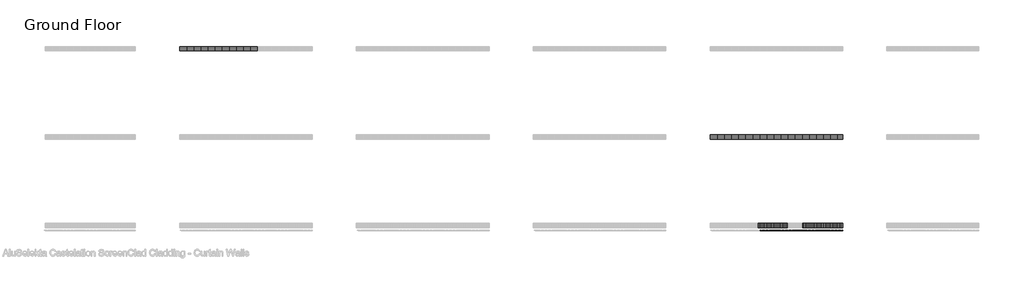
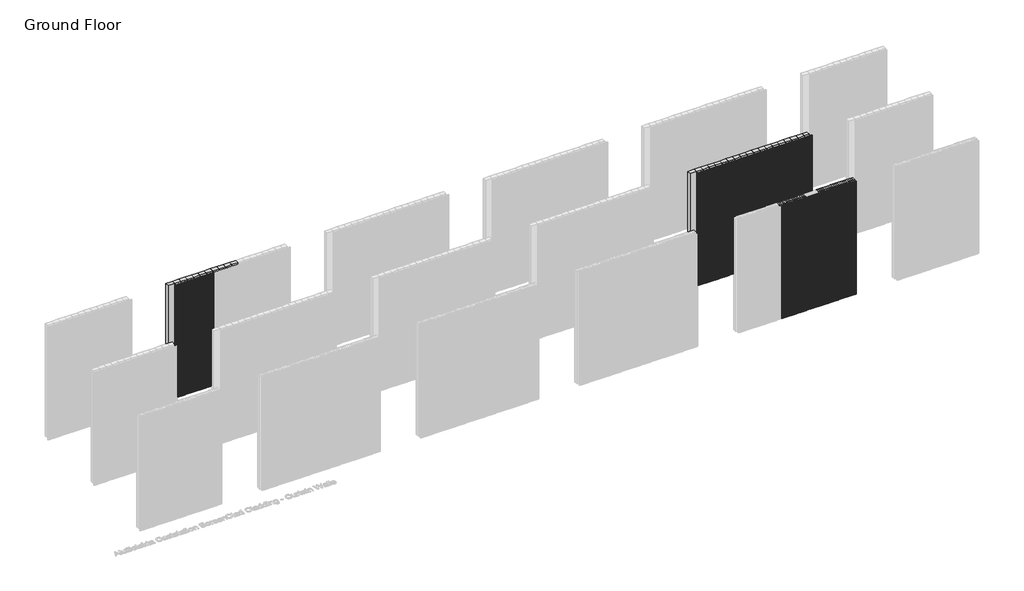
# One storey, part 28 of 350: 71 members, 70 plates.
"""IFC4 building model written with IfcOpenShell, lengths in millimetres."""

from ifc_helpers import new_model, si_unit, origin, place, context, project, spatial, transform, mapped, element, save
from components import rectangular_mullion_4c3290df, rectangular_mullion_73ab8564, empty_system_panel_empty_086c6263, empty_system_panel_empty_a0fcacb3, empty_system_panel_empty_3b645525, empty_system_panel_empty_df7ddcff

model = new_model("IFC4")

# Units and contexts
model_context = context("Model", 3, world=origin())
ifc_project = project(units=[si_unit("LENGTHUNIT", "METRE", prefix="MILLI")], contexts=[model_context])

# Site, building, storey
site = spatial("IfcSite", under=ifc_project)
building = spatial("IfcBuilding", under=site)
storey = spatial("IfcBuildingStorey", under=building, Name="Ground Floor", Elevation=0.0)

# Members
placement = place(None, origin())
rectangular_mullion_shape = rectangular_mullion_4c3290df(model_context)
element("IfcMember", 1, ObjectType="Rectangular Mullion : Cladding_Aluminium_Modinex_AluSelekta_Castelation_ScreenClad_40_TasmanianOak", at=placement, inside=storey, context=model_context, shape_type="MappedRepresentation", body=[
    mapped(rectangular_mullion_shape, transform((47156.4361642, 4968.2978302, 0.0), x_axis=(1.0, 0.0, 0.0), y_axis=(0.0, -1.0, 0.0), z_axis=(0.0, 0.0, -1.0))),
])
element("IfcMember", 2, ObjectType="Rectangular Mullion : Cladding_Aluminium_Modinex_AluSelekta_Castelation_ScreenClad_40_TasmanianOak", at=placement, inside=storey, context=model_context, shape_type="MappedRepresentation", body=[
    mapped(rectangular_mullion_shape, transform((47196.4361642, 4968.2978302, 0.0), x_axis=(1.0, 0.0, 0.0), y_axis=(0.0, -1.0, 0.0), z_axis=(0.0, 0.0, -1.0))),
])
element("IfcMember", 3, ObjectType="Rectangular Mullion : Cladding_Aluminium_Modinex_AluSelekta_Castelation_ScreenClad_40_TasmanianOak", at=placement, inside=storey, context=model_context, shape_type="MappedRepresentation", body=[
    mapped(rectangular_mullion_shape, transform((47236.4361642, 4968.2978302, 0.0), x_axis=(1.0, 0.0, 0.0), y_axis=(0.0, -1.0, 0.0), z_axis=(0.0, 0.0, -1.0))),
])
element("IfcMember", 4, ObjectType="Rectangular Mullion : Cladding_Aluminium_Modinex_AluSelekta_Castelation_ScreenClad_40_TasmanianOak", at=placement, inside=storey, context=model_context, shape_type="MappedRepresentation", body=[
    mapped(rectangular_mullion_shape, transform((47276.4361642, 4968.2978302, 0.0), x_axis=(1.0, 0.0, 0.0), y_axis=(0.0, -1.0, 0.0), z_axis=(0.0, 0.0, -1.0))),
])
element("IfcMember", 5, ObjectType="Rectangular Mullion : Cladding_Aluminium_Modinex_AluSelekta_Castelation_ScreenClad_40_TasmanianOak", at=placement, inside=storey, context=model_context, shape_type="MappedRepresentation", body=[
    mapped(rectangular_mullion_shape, transform((47316.4361642, 4968.2978302, 0.0), x_axis=(1.0, 0.0, 0.0), y_axis=(0.0, -1.0, 0.0), z_axis=(0.0, 0.0, -1.0))),
])
element("IfcMember", 6, ObjectType="Rectangular Mullion : Cladding_Aluminium_Modinex_AluSelekta_Castelation_ScreenClad_40_TasmanianOak", at=placement, inside=storey, context=model_context, shape_type="MappedRepresentation", body=[
    mapped(rectangular_mullion_shape, transform((47356.4361642, 4968.2978302, 0.0), x_axis=(1.0, 0.0, 0.0), y_axis=(0.0, -1.0, 0.0), z_axis=(0.0, 0.0, -1.0))),
])
element("IfcMember", 7, ObjectType="Rectangular Mullion : Cladding_Aluminium_Modinex_AluSelekta_Castelation_ScreenClad_40_TasmanianOak", at=placement, inside=storey, context=model_context, shape_type="MappedRepresentation", body=[
    mapped(rectangular_mullion_shape, transform((47396.4361642, 4968.2978302, 0.0), x_axis=(1.0, 0.0, 0.0), y_axis=(0.0, -1.0, 0.0), z_axis=(0.0, 0.0, -1.0))),
])
element("IfcMember", 8, ObjectType="Rectangular Mullion : Cladding_Aluminium_Modinex_AluSelekta_Castelation_ScreenClad_40_TasmanianOak", at=placement, inside=storey, context=model_context, shape_type="MappedRepresentation", body=[
    mapped(rectangular_mullion_shape, transform((47436.4361642, 4968.2978302, 0.0), x_axis=(1.0, 0.0, 0.0), y_axis=(0.0, -1.0, 0.0), z_axis=(0.0, 0.0, -1.0))),
])
element("IfcMember", 9, ObjectType="Rectangular Mullion : Cladding_Aluminium_Modinex_AluSelekta_Castelation_ScreenClad_40_TasmanianOak", at=placement, inside=storey, context=model_context, shape_type="MappedRepresentation", body=[
    mapped(rectangular_mullion_shape, transform((47476.4361642, 4968.2978302, 0.0), x_axis=(1.0, 0.0, 0.0), y_axis=(0.0, -1.0, 0.0), z_axis=(0.0, 0.0, -1.0))),
])
element("IfcMember", 10, ObjectType="Rectangular Mullion : Cladding_Aluminium_Modinex_AluSelekta_Castelation_ScreenClad_40_TasmanianOak", at=placement, inside=storey, context=model_context, shape_type="MappedRepresentation", body=[
    mapped(rectangular_mullion_shape, transform((47516.4361642, 4968.2978302, 0.0), x_axis=(1.0, 0.0, 0.0), y_axis=(0.0, -1.0, 0.0), z_axis=(0.0, 0.0, -1.0))),
])
element("IfcMember", 11, ObjectType="Rectangular Mullion : Cladding_Aluminium_Modinex_AluSelekta_Castelation_ScreenClad_40_TasmanianOak", at=placement, inside=storey, context=model_context, shape_type="MappedRepresentation", body=[
    mapped(rectangular_mullion_shape, transform((47556.4361642, 4968.2978302, 0.0), x_axis=(1.0, 0.0, 0.0), y_axis=(0.0, -1.0, 0.0), z_axis=(0.0, 0.0, -1.0))),
])
element("IfcMember", 12, ObjectType="Rectangular Mullion : Cladding_Aluminium_Modinex_AluSelekta_Castelation_ScreenClad_40_TasmanianOak", at=placement, inside=storey, context=model_context, shape_type="MappedRepresentation", body=[
    mapped(rectangular_mullion_shape, transform((47596.4361642, 4968.2978302, 0.0), x_axis=(1.0, 0.0, 0.0), y_axis=(0.0, -1.0, 0.0), z_axis=(0.0, 0.0, -1.0))),
])
element("IfcMember", 13, ObjectType="Rectangular Mullion : Cladding_Aluminium_Modinex_AluSelekta_Castelation_ScreenClad_40_TasmanianOak", at=placement, inside=storey, context=model_context, shape_type="MappedRepresentation", body=[
    mapped(rectangular_mullion_shape, transform((47636.4361642, 4968.2978302, 0.0), x_axis=(1.0, 0.0, 0.0), y_axis=(0.0, -1.0, 0.0), z_axis=(0.0, 0.0, -1.0))),
])
element("IfcMember", 14, ObjectType="Rectangular Mullion : Cladding_Aluminium_Modinex_AluSelekta_Castelation_ScreenClad_40_TasmanianOak", at=placement, inside=storey, context=model_context, shape_type="MappedRepresentation", body=[
    mapped(rectangular_mullion_shape, transform((47676.4361642, 4968.2978302, 0.0), x_axis=(1.0, 0.0, 0.0), y_axis=(0.0, -1.0, 0.0), z_axis=(0.0, 0.0, -1.0))),
])
element("IfcMember", 15, ObjectType="Rectangular Mullion : Cladding_Aluminium_Modinex_AluSelekta_Castelation_ScreenClad_40_TasmanianOak", at=placement, inside=storey, context=model_context, shape_type="MappedRepresentation", body=[
    mapped(rectangular_mullion_shape, transform((47716.4361642, 4968.2978302, 0.0), x_axis=(1.0, 0.0, 0.0), y_axis=(0.0, -1.0, 0.0), z_axis=(0.0, 0.0, -1.0))),
])
element("IfcMember", 16, ObjectType="Rectangular Mullion : Cladding_Aluminium_Modinex_AluSelekta_Castelation_ScreenClad_40_TasmanianOak", at=placement, inside=storey, context=model_context, shape_type="MappedRepresentation", body=[
    mapped(rectangular_mullion_shape, transform((47756.4361642, 4968.2978302, 0.0), x_axis=(1.0, 0.0, 0.0), y_axis=(0.0, -1.0, 0.0), z_axis=(0.0, 0.0, -1.0))),
])
element("IfcMember", 17, ObjectType="Rectangular Mullion : Cladding_Aluminium_Modinex_AluSelekta_Castelation_ScreenClad_40_TasmanianOak", at=placement, inside=storey, context=model_context, shape_type="MappedRepresentation", body=[
    mapped(rectangular_mullion_shape, transform((47796.4361642, 4968.2978302, 0.0), x_axis=(1.0, 0.0, 0.0), y_axis=(0.0, -1.0, 0.0), z_axis=(0.0, 0.0, -1.0))),
])
element("IfcMember", 18, ObjectType="Rectangular Mullion : Cladding_Aluminium_Modinex_AluSelekta_Castelation_ScreenClad_40_TasmanianOak", at=placement, inside=storey, context=model_context, shape_type="MappedRepresentation", body=[
    mapped(rectangular_mullion_shape, transform((47836.4361642, 4968.2978302, 0.0), x_axis=(1.0, 0.0, 0.0), y_axis=(0.0, -1.0, 0.0), z_axis=(0.0, 0.0, -1.0))),
])
element("IfcMember", 19, ObjectType="Rectangular Mullion : Cladding_Aluminium_Modinex_AluSelekta_Castelation_ScreenClad_40_TasmanianOak", at=placement, inside=storey, context=model_context, shape_type="MappedRepresentation", body=[
    mapped(rectangular_mullion_shape, transform((47876.4361642, 4968.2978302, 0.0), x_axis=(1.0, 0.0, 0.0), y_axis=(0.0, -1.0, 0.0), z_axis=(0.0, 0.0, -1.0))),
])
element("IfcMember", 20, ObjectType="Rectangular Mullion : Cladding_Aluminium_Modinex_AluSelekta_Castelation_ScreenClad_40_TasmanianOak", at=placement, inside=storey, context=model_context, shape_type="MappedRepresentation", body=[
    mapped(rectangular_mullion_shape, transform((47116.4361642, 4968.2978302, 0.0), x_axis=(1.0, 0.0, 0.0), y_axis=(0.0, -1.0, 0.0), z_axis=(0.0, 0.0, -1.0))),
])
element("IfcMember", 21, ObjectType="Rectangular Mullion : Cladding_Aluminium_Modinex_AluSelekta_Castelation_ScreenClad_40_TasmanianOak", at=placement, inside=storey, context=model_context, shape_type="MappedRepresentation", body=[
    mapped(rectangular_mullion_shape, transform((47076.4361642, 4968.2978302, 0.0), x_axis=(1.0, 0.0, 0.0), y_axis=(0.0, -1.0, 0.0), z_axis=(0.0, 0.0, -1.0))),
])
element("IfcMember", 22, ObjectType="Rectangular Mullion : Cladding_Aluminium_Modinex_AluSelekta_Castelation_ScreenClad_40_TasmanianOak", at=placement, inside=storey, context=model_context, shape_type="MappedRepresentation", body=[
    mapped(rectangular_mullion_shape, transform((47036.4361642, 4968.2978302, 0.0), x_axis=(1.0, 0.0, 0.0), y_axis=(0.0, -1.0, 0.0), z_axis=(0.0, 0.0, -1.0))),
])
element("IfcMember", 23, ObjectType="Rectangular Mullion : Cladding_Aluminium_Modinex_AluSelekta_Castelation_ScreenClad_40_TasmanianOak", at=placement, inside=storey, context=model_context, shape_type="MappedRepresentation", body=[
    mapped(rectangular_mullion_shape, transform((46996.4361642, 4968.2978302, 0.0), x_axis=(1.0, 0.0, 0.0), y_axis=(0.0, -1.0, 0.0), z_axis=(0.0, 0.0, -1.0))),
])
element("IfcMember", 24, ObjectType="Rectangular Mullion : Cladding_Aluminium_Modinex_AluSelekta_Castelation_ScreenClad_40_TasmanianOak", at=placement, inside=storey, context=model_context, shape_type="MappedRepresentation", body=[
    mapped(rectangular_mullion_shape, transform((46956.4361642, 4968.2978302, 0.0), x_axis=(1.0, 0.0, 0.0), y_axis=(0.0, -1.0, 0.0), z_axis=(0.0, 0.0, -1.0))),
])
element("IfcMember", 25, ObjectType="Rectangular Mullion : Cladding_Aluminium_Modinex_AluSelekta_Castelation_ScreenClad_40_TasmanianOak", at=placement, inside=storey, context=model_context, shape_type="MappedRepresentation", body=[
    mapped(rectangular_mullion_shape, transform((46916.4361642, 4968.2978302, 0.0), x_axis=(1.0, 0.0, 0.0), y_axis=(0.0, -1.0, 0.0), z_axis=(0.0, 0.0, -1.0))),
])
element("IfcMember", 26, ObjectType="Rectangular Mullion : Cladding_Aluminium_Modinex_AluSelekta_Castelation_ScreenClad_40_TasmanianOak", at=placement, inside=storey, context=model_context, shape_type="MappedRepresentation", body=[
    mapped(rectangular_mullion_shape, transform((46876.4361642, 4968.2978302, 0.0), x_axis=(1.0, 0.0, 0.0), y_axis=(0.0, -1.0, 0.0), z_axis=(0.0, 0.0, -1.0))),
])
element("IfcMember", 27, ObjectType="Rectangular Mullion : Cladding_Aluminium_Modinex_AluSelekta_Castelation_ScreenClad_40_TasmanianOak", at=placement, inside=storey, context=model_context, shape_type="MappedRepresentation", body=[
    mapped(rectangular_mullion_shape, transform((46836.4361642, 4968.2978302, 0.0), x_axis=(1.0, 0.0, 0.0), y_axis=(0.0, -1.0, 0.0), z_axis=(0.0, 0.0, -1.0))),
])
element("IfcMember", 28, ObjectType="Rectangular Mullion : Cladding_Aluminium_Modinex_AluSelekta_Castelation_ScreenClad_40_TasmanianOak", at=placement, inside=storey, context=model_context, shape_type="MappedRepresentation", body=[
    mapped(rectangular_mullion_shape, transform((46796.4361642, 4968.2978302, 0.0), x_axis=(1.0, 0.0, 0.0), y_axis=(0.0, -1.0, 0.0), z_axis=(0.0, 0.0, -1.0))),
])
element("IfcMember", 29, ObjectType="Rectangular Mullion : Cladding_Aluminium_Modinex_AluSelekta_Castelation_ScreenClad_40_TasmanianOak", at=placement, inside=storey, context=model_context, shape_type="MappedRepresentation", body=[
    mapped(rectangular_mullion_shape, transform((46756.4361642, 4968.2978302, 0.0), x_axis=(1.0, 0.0, 0.0), y_axis=(0.0, -1.0, 0.0), z_axis=(0.0, 0.0, -1.0))),
])
element("IfcMember", 30, ObjectType="Rectangular Mullion : Cladding_Aluminium_Modinex_AluSelekta_Castelation_ScreenClad_40_TasmanianOak", at=placement, inside=storey, context=model_context, shape_type="MappedRepresentation", body=[
    mapped(rectangular_mullion_shape, transform((46716.4361642, 4968.2978302, 0.0), x_axis=(1.0, 0.0, 0.0), y_axis=(0.0, -1.0, 0.0), z_axis=(0.0, 0.0, -1.0))),
])
element("IfcMember", 31, ObjectType="Rectangular Mullion : Cladding_Aluminium_Modinex_AluSelekta_Castelation_ScreenClad_40_TasmanianOak", at=placement, inside=storey, context=model_context, shape_type="MappedRepresentation", body=[
    mapped(rectangular_mullion_shape, transform((46676.4361642, 4968.2978302, 0.0), x_axis=(1.0, 0.0, 0.0), y_axis=(0.0, -1.0, 0.0), z_axis=(0.0, 0.0, -1.0))),
])
element("IfcMember", 32, ObjectType="Rectangular Mullion : Cladding_Aluminium_Modinex_AluSelekta_Castelation_ScreenClad_40_TasmanianOak", at=placement, inside=storey, context=model_context, shape_type="MappedRepresentation", body=[
    mapped(rectangular_mullion_shape, transform((46636.4361642, 4968.2978302, 0.0), x_axis=(1.0, 0.0, 0.0), y_axis=(0.0, -1.0, 0.0), z_axis=(0.0, 0.0, -1.0))),
])
element("IfcMember", 33, ObjectType="Rectangular Mullion : Cladding_Aluminium_Modinex_AluSelekta_Castelation_ScreenClad_40_TasmanianOak", at=placement, inside=storey, context=model_context, shape_type="MappedRepresentation", body=[
    mapped(rectangular_mullion_shape, transform((46596.4361642, 4968.2978302, 0.0), x_axis=(1.0, 0.0, 0.0), y_axis=(0.0, -1.0, 0.0), z_axis=(0.0, 0.0, -1.0))),
])
element("IfcMember", 34, ObjectType="Rectangular Mullion : Cladding_Aluminium_Modinex_AluSelekta_Castelation_ScreenClad_40_TasmanianOak", at=placement, inside=storey, context=model_context, shape_type="MappedRepresentation", body=[
    mapped(rectangular_mullion_shape, transform((46556.4361642, 4968.2978302, 0.0), x_axis=(1.0, 0.0, 0.0), y_axis=(0.0, -1.0, 0.0), z_axis=(0.0, 0.0, -1.0))),
])
element("IfcMember", 35, ObjectType="Rectangular Mullion : Cladding_Aluminium_Modinex_AluSelekta_Castelation_ScreenClad_40_TasmanianOak", at=placement, inside=storey, context=model_context, shape_type="MappedRepresentation", body=[
    mapped(rectangular_mullion_shape, transform((46516.4361642, 4968.2978302, 0.0), x_axis=(1.0, 0.0, 0.0), y_axis=(0.0, -1.0, 0.0), z_axis=(0.0, 0.0, -1.0))),
])
element("IfcMember", 36, ObjectType="Rectangular Mullion : Cladding_Aluminium_Modinex_AluSelekta_Castelation_ScreenClad_40_TasmanianOak", at=placement, inside=storey, context=model_context, shape_type="MappedRepresentation", body=[
    mapped(rectangular_mullion_shape, transform((46476.4361642, 4968.2978302, 0.0), x_axis=(1.0, 0.0, 0.0), y_axis=(0.0, -1.0, 0.0), z_axis=(0.0, 0.0, -1.0))),
])
element("IfcMember", 37, ObjectType="Rectangular Mullion : Cladding_Aluminium_Modinex_AluSelekta_Castelation_ScreenClad_40_TasmanianOak", at=placement, inside=storey, context=model_context, shape_type="MappedRepresentation", body=[
    mapped(rectangular_mullion_shape, transform((46436.4361642, 4968.2978302, 0.0), x_axis=(1.0, 0.0, 0.0), y_axis=(0.0, -1.0, 0.0), z_axis=(0.0, 0.0, -1.0))),
])
element("IfcMember", 38, ObjectType="Rectangular Mullion : Cladding_Aluminium_Modinex_AluSelekta_Castelation_ScreenClad_40_TasmanianOak", at=placement, inside=storey, context=model_context, shape_type="MappedRepresentation", body=[
    mapped(rectangular_mullion_shape, transform((46396.4361642, 4968.2978302, 0.0), x_axis=(1.0, 0.0, 0.0), y_axis=(0.0, -1.0, 0.0), z_axis=(0.0, 0.0, -1.0))),
])
element("IfcMember", 39, ObjectType="Rectangular Mullion : Cladding_Aluminium_Modinex_AluSelekta_Castelation_ScreenClad_40_TasmanianOak", at=placement, inside=storey, context=model_context, shape_type="MappedRepresentation", body=[
    mapped(rectangular_mullion_shape, transform((46356.4361642, 4968.2978302, 0.0), x_axis=(1.0, 0.0, 0.0), y_axis=(0.0, -1.0, 0.0), z_axis=(0.0, 0.0, -1.0))),
])
element("IfcMember", 40, ObjectType="Rectangular Mullion : Cladding_Aluminium_Modinex_AluSelekta_Castelation_ScreenClad_40_TasmanianOak", at=placement, inside=storey, context=model_context, shape_type="MappedRepresentation", body=[
    mapped(rectangular_mullion_shape, transform((46316.4361642, 4968.2978302, 0.0), x_axis=(1.0, 0.0, 0.0), y_axis=(0.0, -1.0, 0.0), z_axis=(0.0, 0.0, -1.0))),
])
element("IfcMember", 41, ObjectType="Rectangular Mullion : Cladding_Aluminium_Modinex_AluSelekta_Castelation_ScreenClad_40_TasmanianOak", at=placement, inside=storey, context=model_context, shape_type="MappedRepresentation", body=[
    mapped(rectangular_mullion_shape, transform((46276.4361642, 4968.2978302, 0.0), x_axis=(1.0, 0.0, 0.0), y_axis=(0.0, -1.0, 0.0), z_axis=(0.0, 0.0, -1.0))),
])
element("IfcMember", 42, ObjectType="Rectangular Mullion : Cladding_Aluminium_Modinex_AluSelekta_Castelation_ScreenClad_40_TasmanianOak", at=placement, inside=storey, context=model_context, shape_type="MappedRepresentation", body=[
    mapped(rectangular_mullion_shape, transform((46236.4361642, 4968.2978302, 0.0), x_axis=(1.0, 0.0, 0.0), y_axis=(0.0, -1.0, 0.0), z_axis=(0.0, 0.0, -1.0))),
])
element("IfcMember", 43, ObjectType="Rectangular Mullion : Cladding_Aluminium_Modinex_AluSelekta_Castelation_ScreenClad_40_TasmanianOak", at=placement, inside=storey, context=model_context, shape_type="MappedRepresentation", body=[
    mapped(rectangular_mullion_shape, transform((46196.4361642, 4968.2978302, 0.0), x_axis=(1.0, 0.0, 0.0), y_axis=(0.0, -1.0, 0.0), z_axis=(0.0, 0.0, -1.0))),
])
element("IfcMember", 44, ObjectType="Rectangular Mullion : Cladding_Aluminium_Modinex_AluSelekta_Castelation_ScreenClad_40_TasmanianOak", at=placement, inside=storey, context=model_context, shape_type="MappedRepresentation", body=[
    mapped(rectangular_mullion_shape, transform((46156.4361642, 4968.2978302, 0.0), x_axis=(1.0, 0.0, 0.0), y_axis=(0.0, -1.0, 0.0), z_axis=(0.0, 0.0, -1.0))),
])
element("IfcMember", 45, ObjectType="Rectangular Mullion : Cladding_Aluminium_Modinex_AluSelekta_Castelation_ScreenClad_40_TasmanianOak", at=placement, inside=storey, context=model_context, shape_type="MappedRepresentation", body=[
    mapped(rectangular_mullion_shape, transform((46116.4361642, 4968.2978302, 0.0), x_axis=(1.0, 0.0, 0.0), y_axis=(0.0, -1.0, 0.0), z_axis=(0.0, 0.0, -1.0))),
])
element("IfcMember", 46, ObjectType="Rectangular Mullion : Cladding_Aluminium_Modinex_AluSelekta_Castelation_ScreenClad_40_TasmanianOak", at=placement, inside=storey, context=model_context, shape_type="MappedRepresentation", body=[
    mapped(rectangular_mullion_shape, transform((46076.4361642, 4968.2978302, 0.0), x_axis=(1.0, 0.0, 0.0), y_axis=(0.0, -1.0, 0.0), z_axis=(0.0, 0.0, -1.0))),
])
element("IfcMember", 47, ObjectType="Rectangular Mullion : Cladding_Aluminium_Modinex_AluSelekta_Castelation_ScreenClad_40_TasmanianOak", at=placement, inside=storey, context=model_context, shape_type="MappedRepresentation", body=[
    mapped(rectangular_mullion_shape, transform((46036.4361642, 4968.2978302, 0.0), x_axis=(1.0, 0.0, 0.0), y_axis=(0.0, -1.0, 0.0), z_axis=(0.0, 0.0, -1.0))),
])
rectangular_mullion_2_shape = rectangular_mullion_73ab8564(model_context)
element("IfcMember", 48, ObjectType="Rectangular Mullion : Cladding_Aluminium_Modinex_AluSelekta_Castelation_ScreenClad_160_TasmanianOak", at=placement, inside=storey, context=model_context, shape_type="MappedRepresentation", body=[
    mapped(rectangular_mullion_2_shape, transform((45076.4361642, 6968.2978302, 0.0), x_axis=(1.0, 0.0, 0.0), y_axis=(0.0, -1.0, 0.0), z_axis=(0.0, 0.0, -1.0))),
])
element("IfcMember", 49, ObjectType="Rectangular Mullion : Cladding_Aluminium_Modinex_AluSelekta_Castelation_ScreenClad_160_TasmanianOak", at=placement, inside=storey, context=model_context, shape_type="MappedRepresentation", body=[
    mapped(rectangular_mullion_2_shape, transform((45236.4361642, 6968.2978302, 0.0), x_axis=(1.0, 0.0, 0.0), y_axis=(0.0, -1.0, 0.0), z_axis=(0.0, 0.0, -1.0))),
])
element("IfcMember", 50, ObjectType="Rectangular Mullion : Cladding_Aluminium_Modinex_AluSelekta_Castelation_ScreenClad_160_TasmanianOak", at=placement, inside=storey, context=model_context, shape_type="MappedRepresentation", body=[
    mapped(rectangular_mullion_2_shape, transform((45396.4361642, 6968.2978302, 0.0), x_axis=(1.0, 0.0, 0.0), y_axis=(0.0, -1.0, 0.0), z_axis=(0.0, 0.0, -1.0))),
])
element("IfcMember", 51, ObjectType="Rectangular Mullion : Cladding_Aluminium_Modinex_AluSelekta_Castelation_ScreenClad_160_TasmanianOak", at=placement, inside=storey, context=model_context, shape_type="MappedRepresentation", body=[
    mapped(rectangular_mullion_2_shape, transform((45556.4361642, 6968.2978302, 0.0), x_axis=(1.0, 0.0, 0.0), y_axis=(0.0, -1.0, 0.0), z_axis=(0.0, 0.0, -1.0))),
])
element("IfcMember", 52, ObjectType="Rectangular Mullion : Cladding_Aluminium_Modinex_AluSelekta_Castelation_ScreenClad_160_TasmanianOak", at=placement, inside=storey, context=model_context, shape_type="MappedRepresentation", body=[
    mapped(rectangular_mullion_2_shape, transform((45716.4361642, 6968.2978302, 0.0), x_axis=(1.0, 0.0, 0.0), y_axis=(0.0, -1.0, 0.0), z_axis=(0.0, 0.0, -1.0))),
])
element("IfcMember", 53, ObjectType="Rectangular Mullion : Cladding_Aluminium_Modinex_AluSelekta_Castelation_ScreenClad_160_TasmanianOak", at=placement, inside=storey, context=model_context, shape_type="MappedRepresentation", body=[
    mapped(rectangular_mullion_2_shape, transform((45876.4361642, 6968.2978302, 0.0), x_axis=(1.0, 0.0, 0.0), y_axis=(0.0, -1.0, 0.0), z_axis=(0.0, 0.0, -1.0))),
])
element("IfcMember", 54, ObjectType="Rectangular Mullion : Cladding_Aluminium_Modinex_AluSelekta_Castelation_ScreenClad_160_TasmanianOak", at=placement, inside=storey, context=model_context, shape_type="MappedRepresentation", body=[
    mapped(rectangular_mullion_2_shape, transform((46036.4361642, 6968.2978302, 0.0), x_axis=(1.0, 0.0, 0.0), y_axis=(0.0, -1.0, 0.0), z_axis=(0.0, 0.0, -1.0))),
])
element("IfcMember", 55, ObjectType="Rectangular Mullion : Cladding_Aluminium_Modinex_AluSelekta_Castelation_ScreenClad_160_TasmanianOak", at=placement, inside=storey, context=model_context, shape_type="MappedRepresentation", body=[
    mapped(rectangular_mullion_2_shape, transform((46196.4361642, 6968.2978302, 0.0), x_axis=(1.0, 0.0, 0.0), y_axis=(0.0, -1.0, 0.0), z_axis=(0.0, 0.0, -1.0))),
])
element("IfcMember", 56, ObjectType="Rectangular Mullion : Cladding_Aluminium_Modinex_AluSelekta_Castelation_ScreenClad_160_TasmanianOak", at=placement, inside=storey, context=model_context, shape_type="MappedRepresentation", body=[
    mapped(rectangular_mullion_2_shape, transform((46356.4361642, 6968.2978302, 0.0), x_axis=(1.0, 0.0, 0.0), y_axis=(0.0, -1.0, 0.0), z_axis=(0.0, 0.0, -1.0))),
])
element("IfcMember", 57, ObjectType="Rectangular Mullion : Cladding_Aluminium_Modinex_AluSelekta_Castelation_ScreenClad_160_TasmanianOak", at=placement, inside=storey, context=model_context, shape_type="MappedRepresentation", body=[
    mapped(rectangular_mullion_2_shape, transform((46516.4361642, 6968.2978302, 0.0), x_axis=(1.0, 0.0, 0.0), y_axis=(0.0, -1.0, 0.0), z_axis=(0.0, 0.0, -1.0))),
])
element("IfcMember", 58, ObjectType="Rectangular Mullion : Cladding_Aluminium_Modinex_AluSelekta_Castelation_ScreenClad_160_TasmanianOak", at=placement, inside=storey, context=model_context, shape_type="MappedRepresentation", body=[
    mapped(rectangular_mullion_2_shape, transform((46676.4361642, 6968.2978302, 0.0), x_axis=(1.0, 0.0, 0.0), y_axis=(0.0, -1.0, 0.0), z_axis=(0.0, 0.0, -1.0))),
])
element("IfcMember", 59, ObjectType="Rectangular Mullion : Cladding_Aluminium_Modinex_AluSelekta_Castelation_ScreenClad_160_TasmanianOak", at=placement, inside=storey, context=model_context, shape_type="MappedRepresentation", body=[
    mapped(rectangular_mullion_2_shape, transform((46836.4361642, 6968.2978302, 0.0), x_axis=(1.0, 0.0, 0.0), y_axis=(0.0, -1.0, 0.0), z_axis=(0.0, 0.0, -1.0))),
])
element("IfcMember", 60, ObjectType="Rectangular Mullion : Cladding_Aluminium_Modinex_AluSelekta_Castelation_ScreenClad_160_TasmanianOak", at=placement, inside=storey, context=model_context, shape_type="MappedRepresentation", body=[
    mapped(rectangular_mullion_2_shape, transform((46996.4361642, 6968.2978302, 0.0), x_axis=(1.0, 0.0, 0.0), y_axis=(0.0, -1.0, 0.0), z_axis=(0.0, 0.0, -1.0))),
])
element("IfcMember", 61, ObjectType="Rectangular Mullion : Cladding_Aluminium_Modinex_AluSelekta_Castelation_ScreenClad_160_TasmanianOak", at=placement, inside=storey, context=model_context, shape_type="MappedRepresentation", body=[
    mapped(rectangular_mullion_2_shape, transform((47156.4361642, 6968.2978302, 0.0), x_axis=(1.0, 0.0, 0.0), y_axis=(0.0, -1.0, 0.0), z_axis=(0.0, 0.0, -1.0))),
])
element("IfcMember", 62, ObjectType="Rectangular Mullion : Cladding_Aluminium_Modinex_AluSelekta_Castelation_ScreenClad_160_TasmanianOak", at=placement, inside=storey, context=model_context, shape_type="MappedRepresentation", body=[
    mapped(rectangular_mullion_2_shape, transform((47316.4361642, 6968.2978302, 0.0), x_axis=(1.0, 0.0, 0.0), y_axis=(0.0, -1.0, 0.0), z_axis=(0.0, 0.0, -1.0))),
])
element("IfcMember", 63, ObjectType="Rectangular Mullion : Cladding_Aluminium_Modinex_AluSelekta_Castelation_ScreenClad_160_TasmanianOak", at=placement, inside=storey, context=model_context, shape_type="MappedRepresentation", body=[
    mapped(rectangular_mullion_2_shape, transform((47476.4361642, 6968.2978302, 0.0), x_axis=(1.0, 0.0, 0.0), y_axis=(0.0, -1.0, 0.0), z_axis=(0.0, 0.0, -1.0))),
])
element("IfcMember", 64, ObjectType="Rectangular Mullion : Cladding_Aluminium_Modinex_AluSelekta_Castelation_ScreenClad_160_TasmanianOak", at=placement, inside=storey, context=model_context, shape_type="MappedRepresentation", body=[
    mapped(rectangular_mullion_2_shape, transform((47636.4361642, 6968.2978302, 0.0), x_axis=(1.0, 0.0, 0.0), y_axis=(0.0, -1.0, 0.0), z_axis=(0.0, 0.0, -1.0))),
])
element("IfcMember", 65, ObjectType="Rectangular Mullion : Cladding_Aluminium_Modinex_AluSelekta_Castelation_ScreenClad_160_TasmanianOak", at=placement, inside=storey, context=model_context, shape_type="MappedRepresentation", body=[
    mapped(rectangular_mullion_2_shape, transform((47796.4361642, 6968.2978302, 0.0), x_axis=(1.0, 0.0, 0.0), y_axis=(0.0, -1.0, 0.0), z_axis=(0.0, 0.0, -1.0))),
])
element("IfcMember", 66, ObjectType="Rectangular Mullion : Cladding_Aluminium_Modinex_AluSelekta_Castelation_ScreenClad_160Ultra_Cedar", at=placement, inside=storey, context=model_context, shape_type="MappedRepresentation", body=[
    mapped(rectangular_mullion_2_shape, transform((33076.4361642, 8968.2978302, 0.0), x_axis=(1.0, 0.0, 0.0), y_axis=(0.0, -1.0, 0.0), z_axis=(0.0, 0.0, -1.0))),
])
element("IfcMember", 67, ObjectType="Rectangular Mullion : Cladding_Aluminium_Modinex_AluSelekta_Castelation_ScreenClad_160Ultra_Cedar", at=placement, inside=storey, context=model_context, shape_type="MappedRepresentation", body=[
    mapped(rectangular_mullion_2_shape, transform((33236.4361642, 8968.2978302, 0.0), x_axis=(1.0, 0.0, 0.0), y_axis=(0.0, -1.0, 0.0), z_axis=(0.0, 0.0, -1.0))),
])
element("IfcMember", 68, ObjectType="Rectangular Mullion : Cladding_Aluminium_Modinex_AluSelekta_Castelation_ScreenClad_160Ultra_Cedar", at=placement, inside=storey, context=model_context, shape_type="MappedRepresentation", body=[
    mapped(rectangular_mullion_2_shape, transform((33396.4361642, 8968.2978302, 0.0), x_axis=(1.0, 0.0, 0.0), y_axis=(0.0, -1.0, 0.0), z_axis=(0.0, 0.0, -1.0))),
])
element("IfcMember", 69, ObjectType="Rectangular Mullion : Cladding_Aluminium_Modinex_AluSelekta_Castelation_ScreenClad_160Ultra_Cedar", at=placement, inside=storey, context=model_context, shape_type="MappedRepresentation", body=[
    mapped(rectangular_mullion_2_shape, transform((33556.4361642, 8968.2978302, 0.0), x_axis=(1.0, 0.0, 0.0), y_axis=(0.0, -1.0, 0.0), z_axis=(0.0, 0.0, -1.0))),
])
element("IfcMember", 70, ObjectType="Rectangular Mullion : Cladding_Aluminium_Modinex_AluSelekta_Castelation_ScreenClad_160Ultra_Cedar", at=placement, inside=storey, context=model_context, shape_type="MappedRepresentation", body=[
    mapped(rectangular_mullion_2_shape, transform((33716.4361642, 8968.2978302, 0.0), x_axis=(1.0, 0.0, 0.0), y_axis=(0.0, -1.0, 0.0), z_axis=(0.0, 0.0, -1.0))),
])
element("IfcMember", 71, ObjectType="Rectangular Mullion : Cladding_Aluminium_Modinex_AluSelekta_Castelation_ScreenClad_160Ultra_Cedar", at=placement, inside=storey, context=model_context, shape_type="MappedRepresentation", body=[
    mapped(rectangular_mullion_2_shape, transform((33876.4361642, 8968.2978302, 0.0), x_axis=(1.0, 0.0, 0.0), y_axis=(0.0, -1.0, 0.0), z_axis=(0.0, 0.0, -1.0))),
])

# Plates
empty_system_panel_empty_shape = empty_system_panel_empty_086c6263(model_context)
element("IfcPlate", 72, ObjectType="Empty System Panel : Empty", at=placement, inside=storey, context=model_context, shape_type="MappedRepresentation", body=[
    mapped(empty_system_panel_empty_shape, transform((47176.4361642, 4968.2978302, 0.0), x_axis=(1.0, 0.0, 0.0), y_axis=(0.0, 1.0, 0.0), z_axis=(0.0, 0.0, 1.0))),
])
element("IfcPlate", 73, ObjectType="Empty System Panel : Empty", at=placement, inside=storey, context=model_context, shape_type="MappedRepresentation", body=[
    mapped(empty_system_panel_empty_shape, transform((47216.4361642, 4968.2978302, 0.0), x_axis=(1.0, 0.0, 0.0), y_axis=(0.0, 1.0, 0.0), z_axis=(0.0, 0.0, 1.0))),
])
element("IfcPlate", 74, ObjectType="Empty System Panel : Empty", at=placement, inside=storey, context=model_context, shape_type="MappedRepresentation", body=[
    mapped(empty_system_panel_empty_shape, transform((47256.4361642, 4968.2978302, 0.0), x_axis=(1.0, 0.0, 0.0), y_axis=(0.0, 1.0, 0.0), z_axis=(0.0, 0.0, 1.0))),
])
element("IfcPlate", 75, ObjectType="Empty System Panel : Empty", at=placement, inside=storey, context=model_context, shape_type="MappedRepresentation", body=[
    mapped(empty_system_panel_empty_shape, transform((47296.4361642, 4968.2978302, 0.0), x_axis=(1.0, 0.0, 0.0), y_axis=(0.0, 1.0, 0.0), z_axis=(0.0, 0.0, 1.0))),
])
element("IfcPlate", 76, ObjectType="Empty System Panel : Empty", at=placement, inside=storey, context=model_context, shape_type="MappedRepresentation", body=[
    mapped(empty_system_panel_empty_shape, transform((47336.4361642, 4968.2978302, 0.0), x_axis=(1.0, 0.0, 0.0), y_axis=(0.0, 1.0, 0.0), z_axis=(0.0, 0.0, 1.0))),
])
element("IfcPlate", 77, ObjectType="Empty System Panel : Empty", at=placement, inside=storey, context=model_context, shape_type="MappedRepresentation", body=[
    mapped(empty_system_panel_empty_shape, transform((47376.4361642, 4968.2978302, 0.0), x_axis=(1.0, 0.0, 0.0), y_axis=(0.0, 1.0, 0.0), z_axis=(0.0, 0.0, 1.0))),
])
element("IfcPlate", 78, ObjectType="Empty System Panel : Empty", at=placement, inside=storey, context=model_context, shape_type="MappedRepresentation", body=[
    mapped(empty_system_panel_empty_shape, transform((47416.4361642, 4968.2978302, 0.0), x_axis=(1.0, 0.0, 0.0), y_axis=(0.0, 1.0, 0.0), z_axis=(0.0, 0.0, 1.0))),
])
element("IfcPlate", 79, ObjectType="Empty System Panel : Empty", at=placement, inside=storey, context=model_context, shape_type="MappedRepresentation", body=[
    mapped(empty_system_panel_empty_shape, transform((47456.4361642, 4968.2978302, 0.0), x_axis=(1.0, 0.0, 0.0), y_axis=(0.0, 1.0, 0.0), z_axis=(0.0, 0.0, 1.0))),
])
element("IfcPlate", 80, ObjectType="Empty System Panel : Empty", at=placement, inside=storey, context=model_context, shape_type="MappedRepresentation", body=[
    mapped(empty_system_panel_empty_shape, transform((47496.4361642, 4968.2978302, 0.0), x_axis=(1.0, 0.0, 0.0), y_axis=(0.0, 1.0, 0.0), z_axis=(0.0, 0.0, 1.0))),
])
element("IfcPlate", 81, ObjectType="Empty System Panel : Empty", at=placement, inside=storey, context=model_context, shape_type="MappedRepresentation", body=[
    mapped(empty_system_panel_empty_shape, transform((47536.4361642, 4968.2978302, 0.0), x_axis=(1.0, 0.0, 0.0), y_axis=(0.0, 1.0, 0.0), z_axis=(0.0, 0.0, 1.0))),
])
element("IfcPlate", 82, ObjectType="Empty System Panel : Empty", at=placement, inside=storey, context=model_context, shape_type="MappedRepresentation", body=[
    mapped(empty_system_panel_empty_shape, transform((47576.4361642, 4968.2978302, 0.0), x_axis=(1.0, 0.0, 0.0), y_axis=(0.0, 1.0, 0.0), z_axis=(0.0, 0.0, 1.0))),
])
element("IfcPlate", 83, ObjectType="Empty System Panel : Empty", at=placement, inside=storey, context=model_context, shape_type="MappedRepresentation", body=[
    mapped(empty_system_panel_empty_shape, transform((47616.4361642, 4968.2978302, 0.0), x_axis=(1.0, 0.0, 0.0), y_axis=(0.0, 1.0, 0.0), z_axis=(0.0, 0.0, 1.0))),
])
element("IfcPlate", 84, ObjectType="Empty System Panel : Empty", at=placement, inside=storey, context=model_context, shape_type="MappedRepresentation", body=[
    mapped(empty_system_panel_empty_shape, transform((47656.4361642, 4968.2978302, 0.0), x_axis=(1.0, 0.0, 0.0), y_axis=(0.0, 1.0, 0.0), z_axis=(0.0, 0.0, 1.0))),
])
element("IfcPlate", 85, ObjectType="Empty System Panel : Empty", at=placement, inside=storey, context=model_context, shape_type="MappedRepresentation", body=[
    mapped(empty_system_panel_empty_shape, transform((47696.4361642, 4968.2978302, 0.0), x_axis=(1.0, 0.0, 0.0), y_axis=(0.0, 1.0, 0.0), z_axis=(0.0, 0.0, 1.0))),
])
element("IfcPlate", 86, ObjectType="Empty System Panel : Empty", at=placement, inside=storey, context=model_context, shape_type="MappedRepresentation", body=[
    mapped(empty_system_panel_empty_shape, transform((47736.4361642, 4968.2978302, 0.0), x_axis=(1.0, 0.0, 0.0), y_axis=(0.0, 1.0, 0.0), z_axis=(0.0, 0.0, 1.0))),
])
element("IfcPlate", 87, ObjectType="Empty System Panel : Empty", at=placement, inside=storey, context=model_context, shape_type="MappedRepresentation", body=[
    mapped(empty_system_panel_empty_shape, transform((47776.4361642, 4968.2978302, 0.0), x_axis=(1.0, 0.0, 0.0), y_axis=(0.0, 1.0, 0.0), z_axis=(0.0, 0.0, 1.0))),
])
element("IfcPlate", 88, ObjectType="Empty System Panel : Empty", at=placement, inside=storey, context=model_context, shape_type="MappedRepresentation", body=[
    mapped(empty_system_panel_empty_shape, transform((47816.4361642, 4968.2978302, 0.0), x_axis=(1.0, 0.0, 0.0), y_axis=(0.0, 1.0, 0.0), z_axis=(0.0, 0.0, 1.0))),
])
element("IfcPlate", 89, ObjectType="Empty System Panel : Empty", at=placement, inside=storey, context=model_context, shape_type="MappedRepresentation", body=[
    mapped(empty_system_panel_empty_shape, transform((47856.4361642, 4968.2978302, 0.0), x_axis=(1.0, 0.0, 0.0), y_axis=(0.0, 1.0, 0.0), z_axis=(0.0, 0.0, 1.0))),
])
element("IfcPlate", 90, ObjectType="Empty System Panel : Empty", at=placement, inside=storey, context=model_context, shape_type="MappedRepresentation", body=[
    mapped(empty_system_panel_empty_shape, transform((47136.4361642, 4968.2978302, 0.0), x_axis=(1.0, 0.0, 0.0), y_axis=(0.0, 1.0, 0.0), z_axis=(0.0, 0.0, 1.0))),
])
element("IfcPlate", 91, ObjectType="Empty System Panel : Empty", at=placement, inside=storey, context=model_context, shape_type="MappedRepresentation", body=[
    mapped(empty_system_panel_empty_shape, transform((47096.4361642, 4968.2978302, 0.0), x_axis=(1.0, 0.0, 0.0), y_axis=(0.0, 1.0, 0.0), z_axis=(0.0, 0.0, 1.0))),
])
element("IfcPlate", 92, ObjectType="Empty System Panel : Empty", at=placement, inside=storey, context=model_context, shape_type="MappedRepresentation", body=[
    mapped(empty_system_panel_empty_shape, transform((47056.4361642, 4968.2978302, 0.0), x_axis=(1.0, 0.0, 0.0), y_axis=(0.0, 1.0, 0.0), z_axis=(0.0, 0.0, 1.0))),
])
element("IfcPlate", 93, ObjectType="Empty System Panel : Empty", at=placement, inside=storey, context=model_context, shape_type="MappedRepresentation", body=[
    mapped(empty_system_panel_empty_shape, transform((47016.4361642, 4968.2978302, 0.0), x_axis=(1.0, 0.0, 0.0), y_axis=(0.0, 1.0, 0.0), z_axis=(0.0, 0.0, 1.0))),
])
element("IfcPlate", 94, ObjectType="Empty System Panel : Empty", at=placement, inside=storey, context=model_context, shape_type="MappedRepresentation", body=[
    mapped(empty_system_panel_empty_shape, transform((46656.4361642, 4968.2978302, 0.0), x_axis=(1.0, 0.0, 0.0), y_axis=(0.0, 1.0, 0.0), z_axis=(0.0, 0.0, 1.0))),
])
element("IfcPlate", 95, ObjectType="Empty System Panel : Empty", at=placement, inside=storey, context=model_context, shape_type="MappedRepresentation", body=[
    mapped(empty_system_panel_empty_shape, transform((46616.4361642, 4968.2978302, 0.0), x_axis=(1.0, 0.0, 0.0), y_axis=(0.0, 1.0, 0.0), z_axis=(0.0, 0.0, 1.0))),
])
element("IfcPlate", 96, ObjectType="Empty System Panel : Empty", at=placement, inside=storey, context=model_context, shape_type="MappedRepresentation", body=[
    mapped(empty_system_panel_empty_shape, transform((46576.4361642, 4968.2978302, 0.0), x_axis=(1.0, 0.0, 0.0), y_axis=(0.0, 1.0, 0.0), z_axis=(0.0, 0.0, 1.0))),
])
element("IfcPlate", 97, ObjectType="Empty System Panel : Empty", at=placement, inside=storey, context=model_context, shape_type="MappedRepresentation", body=[
    mapped(empty_system_panel_empty_shape, transform((46536.4361642, 4968.2978302, 0.0), x_axis=(1.0, 0.0, 0.0), y_axis=(0.0, 1.0, 0.0), z_axis=(0.0, 0.0, 1.0))),
])
element("IfcPlate", 98, ObjectType="Empty System Panel : Empty", at=placement, inside=storey, context=model_context, shape_type="MappedRepresentation", body=[
    mapped(empty_system_panel_empty_shape, transform((46496.4361642, 4968.2978302, 0.0), x_axis=(1.0, 0.0, 0.0), y_axis=(0.0, 1.0, 0.0), z_axis=(0.0, 0.0, 1.0))),
])
element("IfcPlate", 99, ObjectType="Empty System Panel : Empty", at=placement, inside=storey, context=model_context, shape_type="MappedRepresentation", body=[
    mapped(empty_system_panel_empty_shape, transform((46456.4361642, 4968.2978302, 0.0), x_axis=(1.0, 0.0, 0.0), y_axis=(0.0, 1.0, 0.0), z_axis=(0.0, 0.0, 1.0))),
])
element("IfcPlate", 100, ObjectType="Empty System Panel : Empty", at=placement, inside=storey, context=model_context, shape_type="MappedRepresentation", body=[
    mapped(empty_system_panel_empty_shape, transform((46416.4361642, 4968.2978302, 0.0), x_axis=(1.0, 0.0, 0.0), y_axis=(0.0, 1.0, 0.0), z_axis=(0.0, 0.0, 1.0))),
])
element("IfcPlate", 101, ObjectType="Empty System Panel : Empty", at=placement, inside=storey, context=model_context, shape_type="MappedRepresentation", body=[
    mapped(empty_system_panel_empty_shape, transform((46376.4361642, 4968.2978302, 0.0), x_axis=(1.0, 0.0, 0.0), y_axis=(0.0, 1.0, 0.0), z_axis=(0.0, 0.0, 1.0))),
])
element("IfcPlate", 102, ObjectType="Empty System Panel : Empty", at=placement, inside=storey, context=model_context, shape_type="MappedRepresentation", body=[
    mapped(empty_system_panel_empty_shape, transform((46336.4361642, 4968.2978302, 0.0), x_axis=(1.0, 0.0, 0.0), y_axis=(0.0, 1.0, 0.0), z_axis=(0.0, 0.0, 1.0))),
])
element("IfcPlate", 103, ObjectType="Empty System Panel : Empty", at=placement, inside=storey, context=model_context, shape_type="MappedRepresentation", body=[
    mapped(empty_system_panel_empty_shape, transform((46296.4361642, 4968.2978302, 0.0), x_axis=(1.0, 0.0, 0.0), y_axis=(0.0, 1.0, 0.0), z_axis=(0.0, 0.0, 1.0))),
])
element("IfcPlate", 104, ObjectType="Empty System Panel : Empty", at=placement, inside=storey, context=model_context, shape_type="MappedRepresentation", body=[
    mapped(empty_system_panel_empty_shape, transform((46256.4361642, 4968.2978302, 0.0), x_axis=(1.0, 0.0, 0.0), y_axis=(0.0, 1.0, 0.0), z_axis=(0.0, 0.0, 1.0))),
])
element("IfcPlate", 105, ObjectType="Empty System Panel : Empty", at=placement, inside=storey, context=model_context, shape_type="MappedRepresentation", body=[
    mapped(empty_system_panel_empty_shape, transform((46216.4361642, 4968.2978302, 0.0), x_axis=(1.0, 0.0, 0.0), y_axis=(0.0, 1.0, 0.0), z_axis=(0.0, 0.0, 1.0))),
])
element("IfcPlate", 106, ObjectType="Empty System Panel : Empty", at=placement, inside=storey, context=model_context, shape_type="MappedRepresentation", body=[
    mapped(empty_system_panel_empty_shape, transform((46176.4361642, 4968.2978302, 0.0), x_axis=(1.0, 0.0, 0.0), y_axis=(0.0, 1.0, 0.0), z_axis=(0.0, 0.0, 1.0))),
])
element("IfcPlate", 107, ObjectType="Empty System Panel : Empty", at=placement, inside=storey, context=model_context, shape_type="MappedRepresentation", body=[
    mapped(empty_system_panel_empty_shape, transform((46136.4361642, 4968.2978302, 0.0), x_axis=(1.0, 0.0, 0.0), y_axis=(0.0, 1.0, 0.0), z_axis=(0.0, 0.0, 1.0))),
])
element("IfcPlate", 108, ObjectType="Empty System Panel : Empty", at=placement, inside=storey, context=model_context, shape_type="MappedRepresentation", body=[
    mapped(empty_system_panel_empty_shape, transform((46096.4361642, 4968.2978302, 0.0), x_axis=(1.0, 0.0, 0.0), y_axis=(0.0, 1.0, 0.0), z_axis=(0.0, 0.0, 1.0))),
])
element("IfcPlate", 109, ObjectType="Empty System Panel : Empty", at=placement, inside=storey, context=model_context, shape_type="MappedRepresentation", body=[
    mapped(empty_system_panel_empty_shape, transform((46056.4361642, 4968.2978302, 0.0), x_axis=(1.0, 0.0, 0.0), y_axis=(0.0, 1.0, 0.0), z_axis=(0.0, 0.0, 1.0))),
])
element("IfcPlate", 110, ObjectType="Empty System Panel : Empty", at=placement, inside=storey, context=model_context, shape_type="MappedRepresentation", body=[
    mapped(empty_system_panel_empty_shape, transform((46016.4361642, 4968.2978302, 0.0), x_axis=(1.0, 0.0, 0.0), y_axis=(0.0, 1.0, 0.0), z_axis=(0.0, 0.0, 1.0))),
])
empty_system_panel_empty_2_shape = empty_system_panel_empty_a0fcacb3(model_context)
element("IfcPlate", 111, ObjectType="Empty System Panel : Empty", at=placement, inside=storey, context=model_context, shape_type="MappedRepresentation", body=[
    mapped(empty_system_panel_empty_2_shape, transform((47896.4361641, 4968.2978302, 0.0), x_axis=(1.0, 0.0, 0.0), y_axis=(0.0, 1.0, 0.0), z_axis=(0.0, 0.0, 1.0))),
])
empty_system_panel_empty_3_shape = empty_system_panel_empty_3b645525(model_context)
element("IfcPlate", 112, ObjectType="Empty System Panel : Empty", at=placement, inside=storey, context=model_context, shape_type="MappedRepresentation", body=[
    mapped(empty_system_panel_empty_3_shape, transform((44996.4361641, 6968.2978302, 0.0), x_axis=(1.0, 0.0, 0.0), y_axis=(0.0, 1.0, 0.0), z_axis=(0.0, 0.0, 1.0))),
])
element("IfcPlate", 113, ObjectType="Empty System Panel : Empty", at=placement, inside=storey, context=model_context, shape_type="MappedRepresentation", body=[
    mapped(empty_system_panel_empty_3_shape, transform((45156.4361642, 6968.2978302, 0.0), x_axis=(1.0, 0.0, 0.0), y_axis=(0.0, 1.0, 0.0), z_axis=(0.0, 0.0, 1.0))),
])
element("IfcPlate", 114, ObjectType="Empty System Panel : Empty", at=placement, inside=storey, context=model_context, shape_type="MappedRepresentation", body=[
    mapped(empty_system_panel_empty_3_shape, transform((45316.4361642, 6968.2978302, 0.0), x_axis=(1.0, 0.0, 0.0), y_axis=(0.0, 1.0, 0.0), z_axis=(0.0, 0.0, 1.0))),
])
element("IfcPlate", 115, ObjectType="Empty System Panel : Empty", at=placement, inside=storey, context=model_context, shape_type="MappedRepresentation", body=[
    mapped(empty_system_panel_empty_3_shape, transform((45476.4361642, 6968.2978302, 0.0), x_axis=(1.0, 0.0, 0.0), y_axis=(0.0, 1.0, 0.0), z_axis=(0.0, 0.0, 1.0))),
])
element("IfcPlate", 116, ObjectType="Empty System Panel : Empty", at=placement, inside=storey, context=model_context, shape_type="MappedRepresentation", body=[
    mapped(empty_system_panel_empty_3_shape, transform((45636.4361642, 6968.2978302, 0.0), x_axis=(1.0, 0.0, 0.0), y_axis=(0.0, 1.0, 0.0), z_axis=(0.0, 0.0, 1.0))),
])
element("IfcPlate", 117, ObjectType="Empty System Panel : Empty", at=placement, inside=storey, context=model_context, shape_type="MappedRepresentation", body=[
    mapped(empty_system_panel_empty_3_shape, transform((45796.4361642, 6968.2978302, 0.0), x_axis=(1.0, 0.0, 0.0), y_axis=(0.0, 1.0, 0.0), z_axis=(0.0, 0.0, 1.0))),
])
element("IfcPlate", 118, ObjectType="Empty System Panel : Empty", at=placement, inside=storey, context=model_context, shape_type="MappedRepresentation", body=[
    mapped(empty_system_panel_empty_3_shape, transform((45956.4361642, 6968.2978302, 0.0), x_axis=(1.0, 0.0, 0.0), y_axis=(0.0, 1.0, 0.0), z_axis=(0.0, 0.0, 1.0))),
])
element("IfcPlate", 119, ObjectType="Empty System Panel : Empty", at=placement, inside=storey, context=model_context, shape_type="MappedRepresentation", body=[
    mapped(empty_system_panel_empty_3_shape, transform((46116.4361642, 6968.2978302, 0.0), x_axis=(1.0, 0.0, 0.0), y_axis=(0.0, 1.0, 0.0), z_axis=(0.0, 0.0, 1.0))),
])
element("IfcPlate", 120, ObjectType="Empty System Panel : Empty", at=placement, inside=storey, context=model_context, shape_type="MappedRepresentation", body=[
    mapped(empty_system_panel_empty_3_shape, transform((46276.4361642, 6968.2978302, 0.0), x_axis=(1.0, 0.0, 0.0), y_axis=(0.0, 1.0, 0.0), z_axis=(0.0, 0.0, 1.0))),
])
element("IfcPlate", 121, ObjectType="Empty System Panel : Empty", at=placement, inside=storey, context=model_context, shape_type="MappedRepresentation", body=[
    mapped(empty_system_panel_empty_3_shape, transform((46436.4361642, 6968.2978302, 0.0), x_axis=(1.0, 0.0, 0.0), y_axis=(0.0, 1.0, 0.0), z_axis=(0.0, 0.0, 1.0))),
])
element("IfcPlate", 122, ObjectType="Empty System Panel : Empty", at=placement, inside=storey, context=model_context, shape_type="MappedRepresentation", body=[
    mapped(empty_system_panel_empty_3_shape, transform((46596.4361642, 6968.2978302, 0.0), x_axis=(1.0, 0.0, 0.0), y_axis=(0.0, 1.0, 0.0), z_axis=(0.0, 0.0, 1.0))),
])
element("IfcPlate", 123, ObjectType="Empty System Panel : Empty", at=placement, inside=storey, context=model_context, shape_type="MappedRepresentation", body=[
    mapped(empty_system_panel_empty_3_shape, transform((46756.4361642, 6968.2978302, 0.0), x_axis=(1.0, 0.0, 0.0), y_axis=(0.0, 1.0, 0.0), z_axis=(0.0, 0.0, 1.0))),
])
element("IfcPlate", 124, ObjectType="Empty System Panel : Empty", at=placement, inside=storey, context=model_context, shape_type="MappedRepresentation", body=[
    mapped(empty_system_panel_empty_3_shape, transform((46916.4361642, 6968.2978302, 0.0), x_axis=(1.0, 0.0, 0.0), y_axis=(0.0, 1.0, 0.0), z_axis=(0.0, 0.0, 1.0))),
])
element("IfcPlate", 125, ObjectType="Empty System Panel : Empty", at=placement, inside=storey, context=model_context, shape_type="MappedRepresentation", body=[
    mapped(empty_system_panel_empty_3_shape, transform((47076.4361642, 6968.2978302, 0.0), x_axis=(1.0, 0.0, 0.0), y_axis=(0.0, 1.0, 0.0), z_axis=(0.0, 0.0, 1.0))),
])
element("IfcPlate", 126, ObjectType="Empty System Panel : Empty", at=placement, inside=storey, context=model_context, shape_type="MappedRepresentation", body=[
    mapped(empty_system_panel_empty_3_shape, transform((47236.4361642, 6968.2978302, 0.0), x_axis=(1.0, 0.0, 0.0), y_axis=(0.0, 1.0, 0.0), z_axis=(0.0, 0.0, 1.0))),
])
element("IfcPlate", 127, ObjectType="Empty System Panel : Empty", at=placement, inside=storey, context=model_context, shape_type="MappedRepresentation", body=[
    mapped(empty_system_panel_empty_3_shape, transform((47396.4361642, 6968.2978302, 0.0), x_axis=(1.0, 0.0, 0.0), y_axis=(0.0, 1.0, 0.0), z_axis=(0.0, 0.0, 1.0))),
])
element("IfcPlate", 128, ObjectType="Empty System Panel : Empty", at=placement, inside=storey, context=model_context, shape_type="MappedRepresentation", body=[
    mapped(empty_system_panel_empty_3_shape, transform((47556.4361642, 6968.2978302, 0.0), x_axis=(1.0, 0.0, 0.0), y_axis=(0.0, 1.0, 0.0), z_axis=(0.0, 0.0, 1.0))),
])
element("IfcPlate", 129, ObjectType="Empty System Panel : Empty", at=placement, inside=storey, context=model_context, shape_type="MappedRepresentation", body=[
    mapped(empty_system_panel_empty_3_shape, transform((47716.4361642, 6968.2978302, 0.0), x_axis=(1.0, 0.0, 0.0), y_axis=(0.0, 1.0, 0.0), z_axis=(0.0, 0.0, 1.0))),
])
element("IfcPlate", 130, ObjectType="Empty System Panel : Empty", at=placement, inside=storey, context=model_context, shape_type="MappedRepresentation", body=[
    mapped(empty_system_panel_empty_3_shape, transform((32996.4361641, 8968.2978302, 0.0), x_axis=(1.0, 0.0, 0.0), y_axis=(0.0, 1.0, 0.0), z_axis=(0.0, 0.0, 1.0))),
])
element("IfcPlate", 131, ObjectType="Empty System Panel : Empty", at=placement, inside=storey, context=model_context, shape_type="MappedRepresentation", body=[
    mapped(empty_system_panel_empty_3_shape, transform((33156.4361642, 8968.2978302, 0.0), x_axis=(1.0, 0.0, 0.0), y_axis=(0.0, 1.0, 0.0), z_axis=(0.0, 0.0, 1.0))),
])
element("IfcPlate", 132, ObjectType="Empty System Panel : Empty", at=placement, inside=storey, context=model_context, shape_type="MappedRepresentation", body=[
    mapped(empty_system_panel_empty_3_shape, transform((33316.4361642, 8968.2978302, 0.0), x_axis=(1.0, 0.0, 0.0), y_axis=(0.0, 1.0, 0.0), z_axis=(0.0, 0.0, 1.0))),
])
element("IfcPlate", 133, ObjectType="Empty System Panel : Empty", at=placement, inside=storey, context=model_context, shape_type="MappedRepresentation", body=[
    mapped(empty_system_panel_empty_3_shape, transform((33476.4361642, 8968.2978302, 0.0), x_axis=(1.0, 0.0, 0.0), y_axis=(0.0, 1.0, 0.0), z_axis=(0.0, 0.0, 1.0))),
])
element("IfcPlate", 134, ObjectType="Empty System Panel : Empty", at=placement, inside=storey, context=model_context, shape_type="MappedRepresentation", body=[
    mapped(empty_system_panel_empty_3_shape, transform((33636.4361642, 8968.2978302, 0.0), x_axis=(1.0, 0.0, 0.0), y_axis=(0.0, 1.0, 0.0), z_axis=(0.0, 0.0, 1.0))),
])
element("IfcPlate", 135, ObjectType="Empty System Panel : Empty", at=placement, inside=storey, context=model_context, shape_type="MappedRepresentation", body=[
    mapped(empty_system_panel_empty_3_shape, transform((33796.4361642, 8968.2978302, 0.0), x_axis=(1.0, 0.0, 0.0), y_axis=(0.0, 1.0, 0.0), z_axis=(0.0, 0.0, 1.0))),
])
element("IfcPlate", 136, ObjectType="Empty System Panel : Empty", at=placement, inside=storey, context=model_context, shape_type="MappedRepresentation", body=[
    mapped(empty_system_panel_empty_3_shape, transform((33956.4361642, 8968.2978302, 0.0), x_axis=(1.0, 0.0, 0.0), y_axis=(0.0, 1.0, 0.0), z_axis=(0.0, 0.0, 1.0))),
])
element("IfcPlate", 137, ObjectType="Empty System Panel : Empty", at=placement, inside=storey, context=model_context, shape_type="MappedRepresentation", body=[
    mapped(empty_system_panel_empty_3_shape, transform((34116.4361642, 8968.2978302, 0.0), x_axis=(1.0, 0.0, 0.0), y_axis=(0.0, 1.0, 0.0), z_axis=(0.0, 0.0, 1.0))),
])
element("IfcPlate", 138, ObjectType="Empty System Panel : Empty", at=placement, inside=storey, context=model_context, shape_type="MappedRepresentation", body=[
    mapped(empty_system_panel_empty_3_shape, transform((34276.4361642, 8968.2978302, 0.0), x_axis=(1.0, 0.0, 0.0), y_axis=(0.0, 1.0, 0.0), z_axis=(0.0, 0.0, 1.0))),
])
element("IfcPlate", 139, ObjectType="Empty System Panel : Empty", at=placement, inside=storey, context=model_context, shape_type="MappedRepresentation", body=[
    mapped(empty_system_panel_empty_3_shape, transform((34436.4361642, 8968.2978302, 0.0), x_axis=(1.0, 0.0, 0.0), y_axis=(0.0, 1.0, 0.0), z_axis=(0.0, 0.0, 1.0))),
])
element("IfcPlate", 140, ObjectType="Empty System Panel : Empty", at=placement, inside=storey, context=model_context, shape_type="MappedRepresentation", body=[
    mapped(empty_system_panel_empty_3_shape, transform((34596.4361642, 8968.2978302, 0.0), x_axis=(1.0, 0.0, 0.0), y_axis=(0.0, 1.0, 0.0), z_axis=(0.0, 0.0, 1.0))),
])
empty_system_panel_empty_4_shape = empty_system_panel_empty_df7ddcff(model_context)
element("IfcPlate", 141, ObjectType="Empty System Panel : Empty", at=placement, inside=storey, context=model_context, shape_type="MappedRepresentation", body=[
    mapped(empty_system_panel_empty_4_shape, transform((47856.4361641, 6968.2978302, 0.0), x_axis=(1.0, 0.0, 0.0), y_axis=(0.0, 1.0, 0.0), z_axis=(0.0, 0.0, 1.0))),
])

save(model, "model.ifc")
